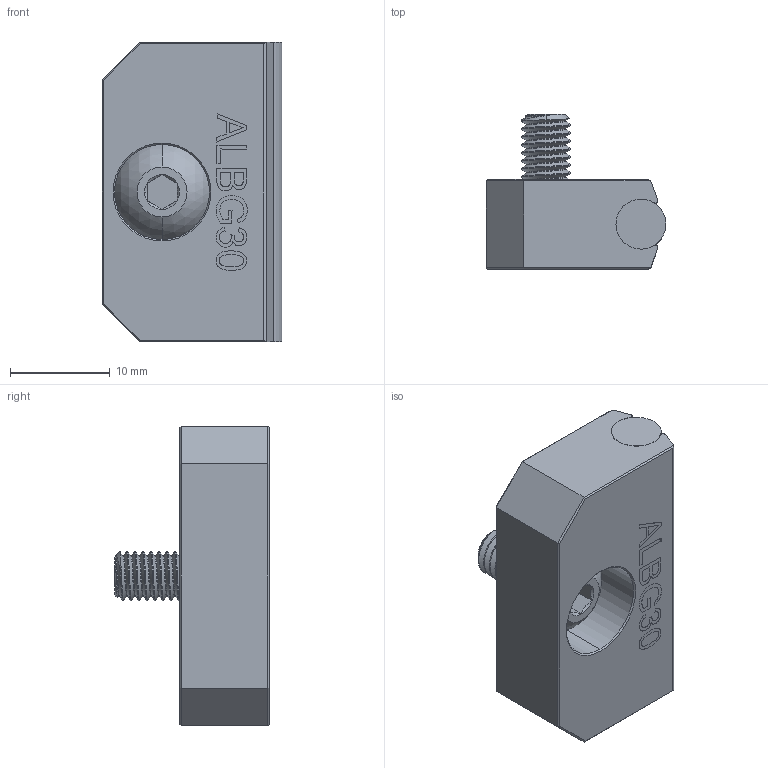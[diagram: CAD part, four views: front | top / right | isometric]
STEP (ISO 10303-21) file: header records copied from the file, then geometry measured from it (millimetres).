
FILE_DESCRIPTION (( 'STEP AP203' ), '1' );
FILE_NAME ('ALBG30_Bar_Guide.STEP', '2020-12-19T21:08:33', ( '' ), ( '' ), 'SwSTEP 2.0', 'SolidWorks 2020', '' );
FILE_SCHEMA (( 'CONFIG_CONTROL_DESIGN' ));
Length unit declared in the file: inch
Products named in the file (3): ALBG30_2020-03-31; ALBG30_Bar_Guide; M5_8X1_ BUTTON-HEAD SOCKET CAP SCREW_91239A224
Assembly tree (2 placements, depth 2):
  ALBG30_Bar_Guide
    M5_8X1_ BUTTON-HEAD SOCKET CAP SCREW_91239A224
    ALBG30_2020-03-31
Bounding box: 18 x 15.5 x 30 mm (x, y, z)
Volume: 4315.2 mm3; surface area: 2413 mm2
Topology: 2 solids, 2 shells, 174 faces, 440 edges, 283 vertices
Faces by surface type: plane 73, cylinder 63, bspline 20, cone 16, sphere 2
Entity records: 7726 total; most frequent: CARTESIAN_POINT 3644, ORIENTED_EDGE 880, DIRECTION 661, EDGE_CURVE 440, VERTEX_POINT 283, LINE 239, VECTOR 239, AXIS2_PLACEMENT_3D 211
